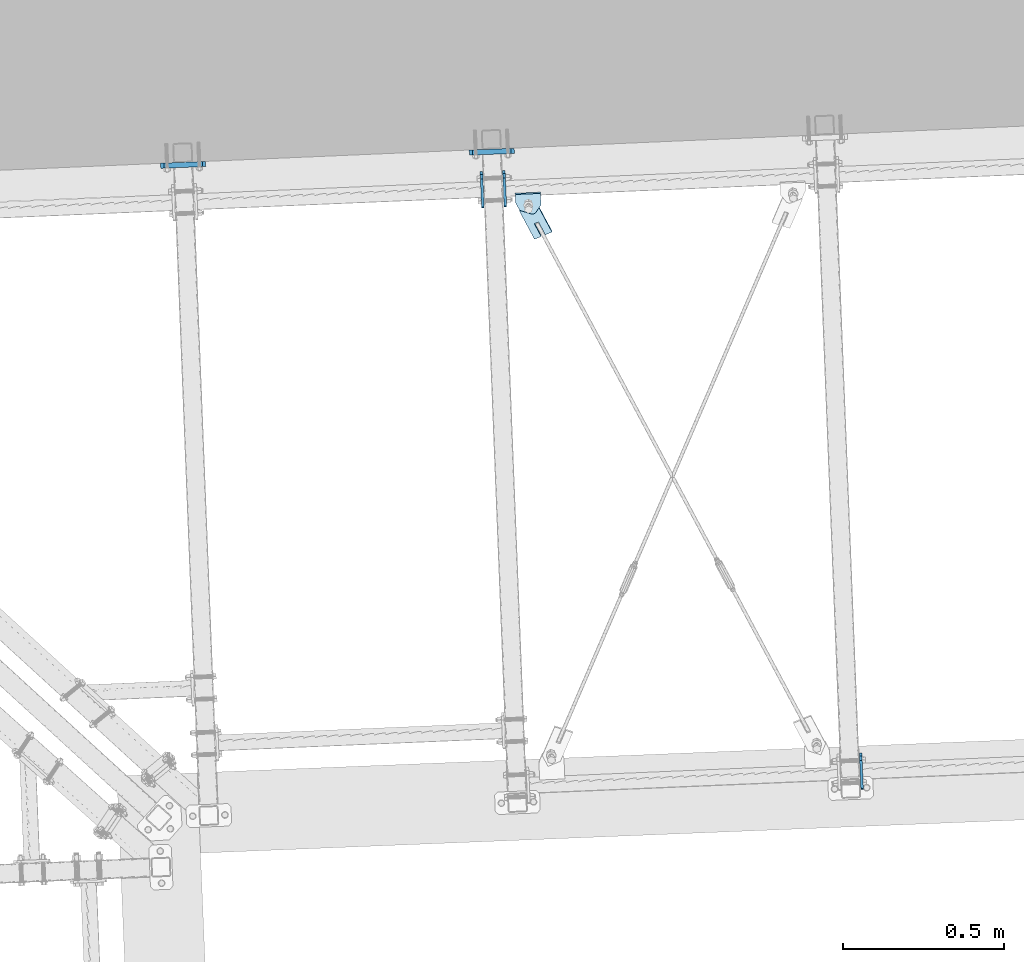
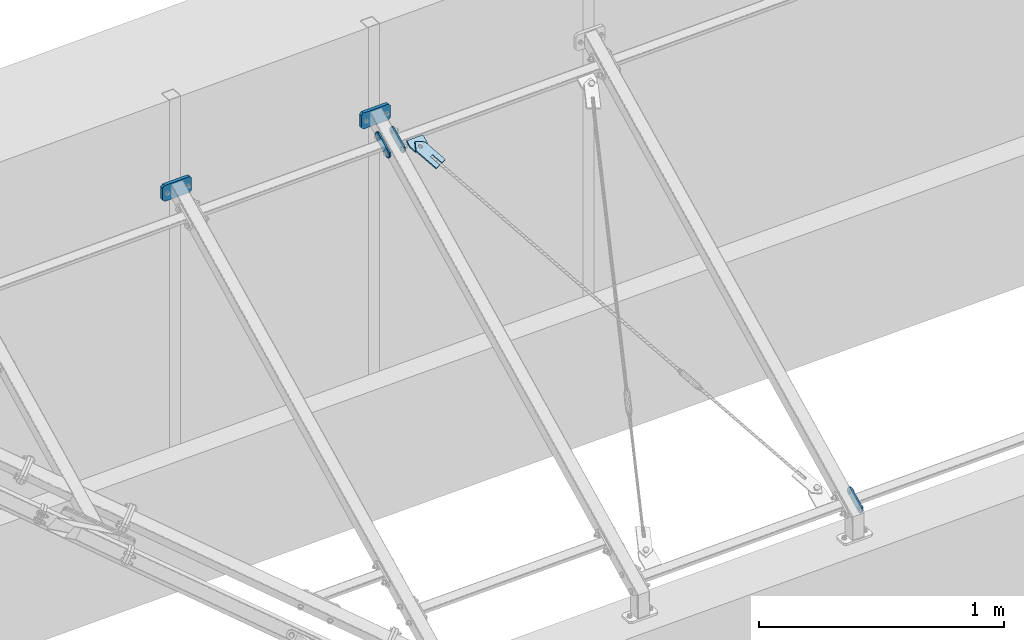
# One storey, part 60 of 288: 7 plates, 37 openings.
"""IFC2X3 building model written with IfcOpenShell, lengths in millimetres."""

from ifc_helpers import new_model, entity, si_unit, converted_unit, point, frame, frame_2d, origin, origin_with_axes, origin_2d_with_axis, place, context, project, spatial, polyline, circle_curve, line_curve, trimmed, segment, composite_curve, circle, outline, extrude, material, layer, layer_set, element, save


model = new_model("IFC2X3")

# Units and contexts
model_context = context("Model", 3, precision=1e-09, world=origin_with_axes())
ifc_project = project(units=[si_unit("LENGTHUNIT", "METRE", prefix="MILLI"), si_unit("AREAUNIT", "SQUARE_METRE"), si_unit("VOLUMEUNIT", "CUBIC_METRE"), converted_unit("PLANEANGLEUNIT", "DEGREE", entity("IfcPlaneAngleMeasure", 0.01745329), si_unit("PLANEANGLEUNIT", "RADIAN"), dimensions=[0, 0, 0, 0, 0, 0, 0])], contexts=[model_context])

# Site, building, storey
site_placement = place(None, origin_with_axes())
site = spatial("IfcSite", under=ifc_project, at=site_placement, Name="Remont ?wietlik?w nad MC w NCPP w Opolu", CompositionType="ELEMENT")
building_placement = place(site_placement, origin_with_axes())
building = spatial("IfcBuilding", under=site, at=building_placement, Name="Konstrukcja 1", CompositionType="ELEMENT")
storey_placement = place(building_placement, origin_with_axes())
storey = spatial("IfcBuildingStorey", under=building, at=storey_placement, Name="Default Storey", CompositionType="ELEMENT", Elevation=0.0)

# Plate, openings
ifc_material = material(Name="S235")
ifc_layer_1 = layer(ifc_material, 8.0)
ifc_layer_set_1 = layer_set([ifc_layer_1], Name="S235")
plate_1_placement = place(None, frame((3509.922791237, 13676.805051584, 93.006119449), z_axis=(-0.999102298, -0.042361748, 0.000284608), x_axis=(0.021561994, -0.502733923, 0.864172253)))
plate_1 = element("IfcPlate", 1, at=plate_1_placement, inside=storey, material=ifc_layer_set_1, Name="-", ObjectType="-", context=model_context, shape_type="SweptSolid", body=[
    extrude(outline(polyline([(0.0, 0.0), (40.0, 0.0), (40.0, 120.0), (0.0, 120.0), (0.0, 0.0)])), origin_with_axes(), (0.0, 0.0, 1.0), 8.0),
])
opening_1_placement = place(plate_1_placement, frame((0.0, 0.0, -0.01), z_axis=(0.0, 0.0, 1.0), x_axis=(1.0, 0.0, 0.0)))
element("IfcOpeningElement", 2, at=opening_1_placement, cuts=plate_1, ObjectType="Opening", context=model_context, shape_type="SweptSolid", body=[
    extrude(outline(composite_curve([segment(trimmed(line_curve((0.0, 0.0), (1.0, 0.0), 10.0), [point((0.0, 0.0))], [point((10.0, 0.0))], True, "CARTESIAN"), True, "CONTINUOUS"), segment(trimmed(circle_curve(frame_2d((10.0, 10.0), x_axis=(-1.0, 0.0)), 10.0), [point((10.0, 0.0))], [point((0.0, 10.0))], False, "CARTESIAN"), True, "CONTINUOUS"), segment(trimmed(line_curve((0.0, 10.0), (0.0, -1.0), 10.0), [point((0.0, 10.0))], [point((0.0, 0.0))], True, "CARTESIAN"), True, "CONTINUOUS")], self_intersect=False)), origin(), (0.0, 0.0, 1.0), 8.02),
])
opening_2_placement = place(plate_1_placement, frame((0.0, 0.0, -0.01), z_axis=(0.0, 0.0, 1.0), x_axis=(1.0, 0.0, 0.0)))
element("IfcOpeningElement", 3, at=opening_2_placement, cuts=plate_1, ObjectType="Opening", context=model_context, shape_type="SweptSolid", body=[
    extrude(outline(composite_curve([segment(trimmed(line_curve((40.0, 0.0), (0.0, 1.0), 10.0), [point((40.0, 0.0))], [point((40.0, 10.0))], True, "CARTESIAN"), True, "CONTINUOUS"), segment(trimmed(circle_curve(frame_2d((30.0, 10.0), x_axis=(-1.0, 0.0)), 10.0), [point((40.0, 10.0))], [point((30.0, 0.0))], False, "CARTESIAN"), True, "CONTINUOUS"), segment(trimmed(line_curve((30.0, 0.0), (1.0, 0.0), 10.0), [point((30.0, 0.0))], [point((40.0, 0.0))], True, "CARTESIAN"), True, "CONTINUOUS")], self_intersect=False)), origin(), (0.0, 0.0, 1.0), 8.02),
])
opening_3_placement = place(plate_1_placement, frame((0.0, 0.0, -0.01), z_axis=(0.0, 0.0, 1.0), x_axis=(1.0, 0.0, 0.0)))
element("IfcOpeningElement", 4, at=opening_3_placement, cuts=plate_1, ObjectType="Opening", context=model_context, shape_type="SweptSolid", body=[
    extrude(outline(composite_curve([segment(trimmed(line_curve((40.0, 120.0), (-1.0, 0.0), 10.0), [point((40.0, 120.0))], [point((30.0, 120.0))], True, "CARTESIAN"), True, "CONTINUOUS"), segment(trimmed(circle_curve(frame_2d((30.0, 110.0), x_axis=(-1.0, 0.0)), 10.0), [point((30.0, 120.0))], [point((40.0, 110.0))], False, "CARTESIAN"), True, "CONTINUOUS"), segment(trimmed(line_curve((40.0, 110.0), (0.0, 1.0), 10.0), [point((40.0, 110.0))], [point((40.0, 120.0))], True, "CARTESIAN"), True, "CONTINUOUS")], self_intersect=False)), origin(), (0.0, 0.0, 1.0), 8.02),
])
opening_4_placement = place(plate_1_placement, frame((0.0, 0.0, -0.01), z_axis=(0.0, 0.0, 1.0), x_axis=(1.0, 0.0, 0.0)))
element("IfcOpeningElement", 5, at=opening_4_placement, cuts=plate_1, ObjectType="Opening", context=model_context, shape_type="SweptSolid", body=[
    extrude(outline(composite_curve([segment(trimmed(line_curve((0.0, 120.0), (0.0, -1.0), 10.0), [point((0.0, 120.0))], [point((0.0, 110.0))], True, "CARTESIAN"), True, "CONTINUOUS"), segment(trimmed(circle_curve(frame_2d((10.0, 110.0), x_axis=(-1.0, 0.0)), 10.0), [point((0.0, 110.0))], [point((10.0, 120.0))], False, "CARTESIAN"), True, "CONTINUOUS"), segment(trimmed(line_curve((10.0, 120.0), (-1.0, 0.0), 10.0), [point((10.0, 120.0))], [point((0.0, 120.0))], True, "CARTESIAN"), True, "CONTINUOUS")], self_intersect=False)), origin(), (0.0, 0.0, 1.0), 8.02),
])
opening_5_placement = place(plate_1_placement, frame((12.999, 100.0, 8.5), z_axis=(0.0, 0.0, 1.0), x_axis=(1.0, 0.0, 0.0)))
element("IfcOpeningElement", 6, at=opening_5_placement, cuts=plate_1, ObjectType="Opening", context=model_context, shape_type="SweptSolid", body=[
    extrude(circle(Radius=7.001, at=frame_2d((7.001, 0.0), x_axis=(1.0, 0.0))), origin(), (0.0, 0.0, -1.0), 9.0),
])
opening_6_placement = place(plate_1_placement, frame((12.999, 20.0, 8.5), z_axis=(0.0, 0.0, 1.0), x_axis=(1.0, 0.0, 0.0)))
element("IfcOpeningElement", 7, at=opening_6_placement, cuts=plate_1, ObjectType="Opening", context=model_context, shape_type="SweptSolid", body=[
    extrude(circle(Radius=7.001, at=frame_2d((7.001, 0.0), x_axis=(1.0, 0.0))), origin(), (0.0, 0.0, -1.0), 9.0),
])

plate_2_placement = place(None, frame((2400.948447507, 15487.741008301, 1176.438469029), z_axis=(-0.999102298, -0.042361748, 0.000284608), x_axis=(0.021561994, -0.502733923, 0.864172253)))
plate_2 = element("IfcPlate", 8, at=plate_2_placement, inside=storey, material=ifc_layer_set_1, Name="-", ObjectType="-", context=model_context, shape_type="SweptSolid", body=[
    extrude(outline(polyline([(0.0, 0.0), (40.0, 0.0), (40.0, 120.0), (0.0, 120.0), (0.0, 0.0)])), origin_with_axes(), (0.0, 0.0, 1.0), 8.0),
])
opening_7_placement = place(plate_2_placement, frame((0.0, 0.0, -0.01), z_axis=(0.0, 0.0, 1.0), x_axis=(1.0, 0.0, 0.0)))
element("IfcOpeningElement", 9, at=opening_7_placement, cuts=plate_2, ObjectType="Opening", context=model_context, shape_type="SweptSolid", body=[
    extrude(outline(composite_curve([segment(trimmed(line_curve((0.0, 0.0), (1.0, 0.0), 10.0), [point((0.0, 0.0))], [point((10.0, 0.0))], True, "CARTESIAN"), True, "CONTINUOUS"), segment(trimmed(circle_curve(frame_2d((10.0, 10.0), x_axis=(-1.0, 0.0)), 10.0), [point((10.0, 0.0))], [point((0.0, 10.0))], False, "CARTESIAN"), True, "CONTINUOUS"), segment(trimmed(line_curve((0.0, 10.0), (0.0, -1.0), 10.0), [point((0.0, 10.0))], [point((0.0, 0.0))], True, "CARTESIAN"), True, "CONTINUOUS")], self_intersect=False)), origin(), (0.0, 0.0, 1.0), 8.02),
])
opening_8_placement = place(plate_2_placement, frame((0.0, 0.0, -0.01), z_axis=(0.0, 0.0, 1.0), x_axis=(1.0, 0.0, 0.0)))
element("IfcOpeningElement", 10, at=opening_8_placement, cuts=plate_2, ObjectType="Opening", context=model_context, shape_type="SweptSolid", body=[
    extrude(outline(composite_curve([segment(trimmed(line_curve((40.0, 0.0), (0.0, 1.0), 10.0), [point((40.0, 0.0))], [point((40.0, 10.0))], True, "CARTESIAN"), True, "CONTINUOUS"), segment(trimmed(circle_curve(frame_2d((30.0, 10.0), x_axis=(-1.0, 0.0)), 10.0), [point((40.0, 10.0))], [point((30.0, 0.0))], False, "CARTESIAN"), True, "CONTINUOUS"), segment(trimmed(line_curve((30.0, 0.0), (1.0, 0.0), 10.0), [point((30.0, 0.0))], [point((40.0, 0.0))], True, "CARTESIAN"), True, "CONTINUOUS")], self_intersect=False)), origin(), (0.0, 0.0, 1.0), 8.02),
])
opening_9_placement = place(plate_2_placement, frame((0.0, 0.0, -0.01), z_axis=(0.0, 0.0, 1.0), x_axis=(1.0, 0.0, 0.0)))
element("IfcOpeningElement", 11, at=opening_9_placement, cuts=plate_2, ObjectType="Opening", context=model_context, shape_type="SweptSolid", body=[
    extrude(outline(composite_curve([segment(trimmed(line_curve((40.0, 120.0), (-1.0, 0.0), 10.0), [point((40.0, 120.0))], [point((30.0, 120.0))], True, "CARTESIAN"), True, "CONTINUOUS"), segment(trimmed(circle_curve(frame_2d((30.0, 110.0), x_axis=(-1.0, 0.0)), 10.0), [point((30.0, 120.0))], [point((40.0, 110.0))], False, "CARTESIAN"), True, "CONTINUOUS"), segment(trimmed(line_curve((40.0, 110.0), (0.0, 1.0), 10.0), [point((40.0, 110.0))], [point((40.0, 120.0))], True, "CARTESIAN"), True, "CONTINUOUS")], self_intersect=False)), origin(), (0.0, 0.0, 1.0), 8.02),
])
opening_10_placement = place(plate_2_placement, frame((0.0, 0.0, -0.01), z_axis=(0.0, 0.0, 1.0), x_axis=(1.0, 0.0, 0.0)))
element("IfcOpeningElement", 12, at=opening_10_placement, cuts=plate_2, ObjectType="Opening", context=model_context, shape_type="SweptSolid", body=[
    extrude(outline(composite_curve([segment(trimmed(line_curve((0.0, 120.0), (0.0, -1.0), 10.0), [point((0.0, 120.0))], [point((0.0, 110.0))], True, "CARTESIAN"), True, "CONTINUOUS"), segment(trimmed(circle_curve(frame_2d((10.0, 110.0), x_axis=(-1.0, 0.0)), 10.0), [point((0.0, 110.0))], [point((10.0, 120.0))], False, "CARTESIAN"), True, "CONTINUOUS"), segment(trimmed(line_curve((10.0, 120.0), (-1.0, 0.0), 10.0), [point((10.0, 120.0))], [point((0.0, 120.0))], True, "CARTESIAN"), True, "CONTINUOUS")], self_intersect=False)), origin(), (0.0, 0.0, 1.0), 8.02),
])
opening_11_placement = place(plate_2_placement, frame((20.0, 60.0, -0.5), z_axis=(0.0, 0.0, 1.0), x_axis=(1.0, 0.0, 0.0)))
element("IfcOpeningElement", 13, at=opening_11_placement, cuts=plate_2, ObjectType="Opening", context=model_context, shape_type="SweptSolid", body=[
    extrude(circle(Radius=7.001, at=frame_2d((0.0, 40.0), x_axis=(1.0, 0.0))), origin(), (0.0, 0.0, 1.0), 9.0),
])
opening_12_placement = place(plate_2_placement, frame((20.0, 60.0, -0.5), z_axis=(0.0, 0.0, 1.0), x_axis=(1.0, 0.0, 0.0)))
element("IfcOpeningElement", 14, at=opening_12_placement, cuts=plate_2, ObjectType="Opening", context=model_context, shape_type="SweptSolid", body=[
    extrude(circle(Radius=7.001, at=frame_2d((0.0, -40.0), x_axis=(1.0, 0.0))), origin(), (0.0, 0.0, 1.0), 9.0),
])

plate_3_placement = place(None, frame((2331.011286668, 15484.775685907, 1176.458391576), z_axis=(-0.999102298, -0.042361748, 0.000284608), x_axis=(0.021561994, -0.502733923, 0.864172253)))
plate_3 = element("IfcPlate", 15, at=plate_3_placement, inside=storey, material=ifc_layer_set_1, Name="-", ObjectType="-", context=model_context, shape_type="SweptSolid", body=[
    extrude(outline(polyline([(0.0, 0.0), (40.0, 0.0), (40.0, 120.0), (0.0, 120.0), (0.0, 0.0)])), origin_with_axes(), (0.0, 0.0, 1.0), 8.0),
])
opening_13_placement = place(plate_3_placement, frame((0.0, 0.0, -0.01), z_axis=(0.0, 0.0, 1.0), x_axis=(1.0, 0.0, 0.0)))
element("IfcOpeningElement", 16, at=opening_13_placement, cuts=plate_3, ObjectType="Opening", context=model_context, shape_type="SweptSolid", body=[
    extrude(outline(composite_curve([segment(trimmed(line_curve((40.0, 0.0), (0.0, 1.0), 10.0), [point((40.0, 0.0))], [point((40.0, 10.0))], True, "CARTESIAN"), True, "CONTINUOUS"), segment(trimmed(circle_curve(frame_2d((30.0, 10.0), x_axis=(-1.0, 0.0)), 10.0), [point((40.0, 10.0))], [point((30.0, 0.0))], False, "CARTESIAN"), True, "CONTINUOUS"), segment(trimmed(line_curve((30.0, 0.0), (1.0, 0.0), 10.0), [point((30.0, 0.0))], [point((40.0, 0.0))], True, "CARTESIAN"), True, "CONTINUOUS")], self_intersect=False)), origin(), (0.0, 0.0, 1.0), 8.02),
])
opening_14_placement = place(plate_3_placement, frame((0.0, 0.0, -0.01), z_axis=(0.0, 0.0, 1.0), x_axis=(1.0, 0.0, 0.0)))
element("IfcOpeningElement", 17, at=opening_14_placement, cuts=plate_3, ObjectType="Opening", context=model_context, shape_type="SweptSolid", body=[
    extrude(outline(composite_curve([segment(trimmed(line_curve((0.0, 0.0), (1.0, 0.0), 10.0), [point((0.0, 0.0))], [point((10.0, 0.0))], True, "CARTESIAN"), True, "CONTINUOUS"), segment(trimmed(circle_curve(frame_2d((10.0, 10.0), x_axis=(-1.0, 0.0)), 10.0), [point((10.0, 0.0))], [point((0.0, 10.0))], False, "CARTESIAN"), True, "CONTINUOUS"), segment(trimmed(line_curve((0.0, 10.0), (0.0, -1.0), 10.0), [point((0.0, 10.0))], [point((0.0, 0.0))], True, "CARTESIAN"), True, "CONTINUOUS")], self_intersect=False)), origin(), (0.0, 0.0, 1.0), 8.02),
])
opening_15_placement = place(plate_3_placement, frame((0.0, 0.0, -0.01), z_axis=(0.0, 0.0, 1.0), x_axis=(1.0, 0.0, 0.0)))
element("IfcOpeningElement", 18, at=opening_15_placement, cuts=plate_3, ObjectType="Opening", context=model_context, shape_type="SweptSolid", body=[
    extrude(outline(composite_curve([segment(trimmed(line_curve((40.0, 120.0), (-1.0, 0.0), 10.0), [point((40.0, 120.0))], [point((30.0, 120.0))], True, "CARTESIAN"), True, "CONTINUOUS"), segment(trimmed(circle_curve(frame_2d((30.0, 110.0), x_axis=(-1.0, 0.0)), 10.0), [point((30.0, 120.0))], [point((40.0, 110.0))], False, "CARTESIAN"), True, "CONTINUOUS"), segment(trimmed(line_curve((40.0, 110.0), (0.0, 1.0), 10.0), [point((40.0, 110.0))], [point((40.0, 120.0))], True, "CARTESIAN"), True, "CONTINUOUS")], self_intersect=False)), origin(), (0.0, 0.0, 1.0), 8.02),
])
opening_16_placement = place(plate_3_placement, frame((0.0, 0.0, -0.01), z_axis=(0.0, 0.0, 1.0), x_axis=(1.0, 0.0, 0.0)))
element("IfcOpeningElement", 19, at=opening_16_placement, cuts=plate_3, ObjectType="Opening", context=model_context, shape_type="SweptSolid", body=[
    extrude(outline(composite_curve([segment(trimmed(line_curve((0.0, 120.0), (0.0, -1.0), 10.0), [point((0.0, 120.0))], [point((0.0, 110.0))], True, "CARTESIAN"), True, "CONTINUOUS"), segment(trimmed(circle_curve(frame_2d((10.0, 110.0), x_axis=(-1.0, 0.0)), 10.0), [point((0.0, 110.0))], [point((10.0, 120.0))], False, "CARTESIAN"), True, "CONTINUOUS"), segment(trimmed(line_curve((10.0, 120.0), (-1.0, 0.0), 10.0), [point((10.0, 120.0))], [point((0.0, 120.0))], True, "CARTESIAN"), True, "CONTINUOUS")], self_intersect=False)), origin(), (0.0, 0.0, 1.0), 8.02),
])
opening_17_placement = place(plate_3_placement, frame((20.0, 60.0, -0.5), z_axis=(0.0, 0.0, 1.0), x_axis=(1.0, 0.0, 0.0)))
element("IfcOpeningElement", 20, at=opening_17_placement, cuts=plate_3, ObjectType="Opening", context=model_context, shape_type="SweptSolid", body=[
    extrude(circle(Radius=7.001, at=frame_2d((0.0, 40.0), x_axis=(1.0, 0.0))), origin(), (0.0, 0.0, 1.0), 9.0),
])
opening_18_placement = place(plate_3_placement, frame((20.0, 60.0, -0.5), z_axis=(0.0, 0.0, 1.0), x_axis=(1.0, 0.0, 0.0)))
element("IfcOpeningElement", 21, at=opening_18_placement, cuts=plate_3, ObjectType="Opening", context=model_context, shape_type="SweptSolid", body=[
    extrude(circle(Radius=7.001, at=frame_2d((0.0, -40.0), x_axis=(1.0, 0.0))), origin(), (0.0, 0.0, 1.0), 9.0),
])

ifc_layer_2 = layer(ifc_material, 16.0)
ifc_layer_set_2 = layer_set([ifc_layer_2], Name="S235")
plate_4_placement = place(None, frame((1466.139144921, 15598.243717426, 1326.840236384), z_axis=(-0.039393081, 0.999223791, 0.0), x_axis=(0.0, 0.0, -1.0)))
plate_4 = element("IfcPlate", 22, at=plate_4_placement, inside=storey, material=ifc_layer_set_2, Name="Baseplate", ObjectType="Baseplate", context=model_context, shape_type="SweptSolid", body=[
    extrude(outline(polyline([(0.0, 0.0), (79.479967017, 0.0), (79.479967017, 140.0), (0.0, 140.0), (0.0, 0.0)])), origin_with_axes(), (0.0, 0.0, 1.0), 16.0),
])
opening_19_placement = place(plate_4_placement, frame((0.0, 0.0, -0.01), z_axis=(0.0, 0.0, 1.0), x_axis=(1.0, 0.0, 0.0)))
element("IfcOpeningElement", 23, at=opening_19_placement, cuts=plate_4, ObjectType="Opening", context=model_context, shape_type="SweptSolid", body=[
    extrude(outline(composite_curve([segment(trimmed(line_curve((0.0, 140.0), (0.0, -1.0), 10.0), [point((0.0, 140.0))], [point((0.0, 130.0))], True, "CARTESIAN"), True, "CONTINUOUS"), segment(trimmed(circle_curve(frame_2d((10.0, 130.0), x_axis=(-1.0, 0.0)), 10.0), [point((0.0, 130.0))], [point((10.0, 140.0))], False, "CARTESIAN"), True, "CONTINUOUS"), segment(trimmed(line_curve((10.0, 140.0), (-1.0, 0.0), 10.0), [point((10.0, 140.0))], [point((0.0, 140.0))], True, "CARTESIAN"), True, "CONTINUOUS")], self_intersect=False)), origin(), (0.0, 0.0, 1.0), 16.02),
])
opening_20_placement = place(plate_4_placement, frame((0.0, 0.0, -0.01), z_axis=(0.0, 0.0, 1.0), x_axis=(1.0, 0.0, 0.0)))
element("IfcOpeningElement", 24, at=opening_20_placement, cuts=plate_4, ObjectType="Opening", context=model_context, shape_type="SweptSolid", body=[
    extrude(outline(composite_curve([segment(trimmed(line_curve((0.0, 0.0), (1.0, 0.0), 10.0), [point((0.0, 0.0))], [point((10.0, 0.0))], True, "CARTESIAN"), True, "CONTINUOUS"), segment(trimmed(circle_curve(frame_2d((10.0, 10.0), x_axis=(-1.0, 0.0)), 10.0), [point((10.0, 0.0))], [point((0.0, 10.0))], False, "CARTESIAN"), True, "CONTINUOUS"), segment(trimmed(line_curve((0.0, 10.0), (0.0, -1.0), 10.0), [point((0.0, 10.0))], [point((0.0, 0.0))], True, "CARTESIAN"), True, "CONTINUOUS")], self_intersect=False)), origin(), (0.0, 0.0, 1.0), 16.02),
])
opening_21_placement = place(plate_4_placement, frame((0.0, 0.0, -0.01), z_axis=(0.0, 0.0, 1.0), x_axis=(1.0, 0.0, 0.0)))
element("IfcOpeningElement", 25, at=opening_21_placement, cuts=plate_4, ObjectType="Opening", context=model_context, shape_type="SweptSolid", body=[
    extrude(outline(composite_curve([segment(trimmed(line_curve((79.479967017, 0.0), (0.0, 1.0), 10.0), [point((79.479967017, 0.0))], [point((79.479967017, 10.0))], True, "CARTESIAN"), True, "CONTINUOUS"), segment(trimmed(circle_curve(frame_2d((69.479967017, 10.0), x_axis=(-1.0, 0.0)), 10.0), [point((79.479967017, 10.0))], [point((69.479967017, 0.0))], False, "CARTESIAN"), True, "CONTINUOUS"), segment(trimmed(line_curve((69.479967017, 0.0), (1.0, 0.0), 10.0), [point((69.479967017, 0.0))], [point((79.479967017, 0.0))], True, "CARTESIAN"), True, "CONTINUOUS")], self_intersect=False)), origin(), (0.0, 0.0, 1.0), 16.02),
])
opening_22_placement = place(plate_4_placement, frame((0.0, 0.0, -0.01), z_axis=(0.0, 0.0, 1.0), x_axis=(1.0, 0.0, 0.0)))
element("IfcOpeningElement", 26, at=opening_22_placement, cuts=plate_4, ObjectType="Opening", context=model_context, shape_type="SweptSolid", body=[
    extrude(outline(composite_curve([segment(trimmed(line_curve((79.479967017, 140.0), (-1.0, 0.0), 10.0), [point((79.479967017, 140.0))], [point((69.479967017, 140.0))], True, "CARTESIAN"), True, "CONTINUOUS"), segment(trimmed(circle_curve(frame_2d((69.479967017, 130.0), x_axis=(-1.0, 0.0)), 10.0), [point((69.479967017, 140.0))], [point((79.479967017, 130.0))], False, "CARTESIAN"), True, "CONTINUOUS"), segment(trimmed(line_curve((79.479967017, 130.0), (0.0, 1.0), 10.0), [point((79.479967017, 130.0))], [point((79.479967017, 140.0))], True, "CARTESIAN"), True, "CONTINUOUS")], self_intersect=False)), origin(), (0.0, 0.0, 1.0), 16.02),
])
opening_23_placement = place(plate_4_placement, frame((39.739983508, 120.0, 16.5), z_axis=(0.0, 0.0, -1.0), x_axis=(1.0, 0.0, 0.0)))
element("IfcOpeningElement", 27, at=opening_23_placement, cuts=plate_4, ObjectType="Opening", context=model_context, shape_type="SweptSolid", body=[
    extrude(circle(Radius=6.001, at=origin_2d_with_axis()), origin(), (0.0, 0.0, 1.0), 17.0),
])
opening_24_placement = place(plate_4_placement, frame((39.739983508, 20.0, 16.5), z_axis=(0.0, 0.0, -1.0), x_axis=(1.0, 0.0, 0.0)))
element("IfcOpeningElement", 28, at=opening_24_placement, cuts=plate_4, ObjectType="Opening", context=model_context, shape_type="SweptSolid", body=[
    extrude(circle(Radius=6.001, at=origin_2d_with_axis()), origin(), (0.0, 0.0, 1.0), 17.0),
])

plate_5_placement = place(None, frame((2425.529943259, 15639.121884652, 1326.521717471), z_axis=(-0.039393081, 0.999223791, 0.0), x_axis=(0.0, 0.0, -1.0)))
plate_5 = element("IfcPlate", 29, at=plate_5_placement, inside=storey, material=ifc_layer_set_2, Name="Baseplate", ObjectType="Baseplate", context=model_context, shape_type="SweptSolid", body=[
    extrude(outline(polyline([(0.0, 0.0), (79.473498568, 0.0), (79.473498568, 140.0), (0.0, 140.0), (0.0, 0.0)])), origin_with_axes(), (0.0, 0.0, 1.0), 16.0),
])
opening_25_placement = place(plate_5_placement, frame((0.0, 0.0, -0.01), z_axis=(0.0, 0.0, 1.0), x_axis=(1.0, 0.0, 0.0)))
element("IfcOpeningElement", 30, at=opening_25_placement, cuts=plate_5, ObjectType="Opening", context=model_context, shape_type="SweptSolid", body=[
    extrude(outline(composite_curve([segment(trimmed(line_curve((0.0, 140.0), (0.0, -1.0), 10.0), [point((0.0, 140.0))], [point((0.0, 130.0))], True, "CARTESIAN"), True, "CONTINUOUS"), segment(trimmed(circle_curve(frame_2d((10.0, 130.0), x_axis=(-1.0, 0.0)), 10.0), [point((0.0, 130.0))], [point((10.0, 140.0))], False, "CARTESIAN"), True, "CONTINUOUS"), segment(trimmed(line_curve((10.0, 140.0), (-1.0, 0.0), 10.0), [point((10.0, 140.0))], [point((0.0, 140.0))], True, "CARTESIAN"), True, "CONTINUOUS")], self_intersect=False)), origin(), (0.0, 0.0, 1.0), 16.02),
])
opening_26_placement = place(plate_5_placement, frame((0.0, 0.0, -0.01), z_axis=(0.0, 0.0, 1.0), x_axis=(1.0, 0.0, 0.0)))
element("IfcOpeningElement", 31, at=opening_26_placement, cuts=plate_5, ObjectType="Opening", context=model_context, shape_type="SweptSolid", body=[
    extrude(outline(composite_curve([segment(trimmed(line_curve((79.473498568, 140.0), (-1.0, 0.0), 10.0), [point((79.473498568, 140.0))], [point((69.473498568, 140.0))], True, "CARTESIAN"), True, "CONTINUOUS"), segment(trimmed(circle_curve(frame_2d((69.473498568, 130.0), x_axis=(-1.0, 0.0)), 10.0), [point((69.473498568, 140.0))], [point((79.473498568, 130.0))], False, "CARTESIAN"), True, "CONTINUOUS"), segment(trimmed(line_curve((79.473498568, 130.0), (0.0, 1.0), 10.0), [point((79.473498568, 130.0))], [point((79.473498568, 140.0))], True, "CARTESIAN"), True, "CONTINUOUS")], self_intersect=False)), origin(), (0.0, 0.0, 1.0), 16.02),
])
opening_27_placement = place(plate_5_placement, frame((0.0, 0.0, -0.01), z_axis=(0.0, 0.0, 1.0), x_axis=(1.0, 0.0, 0.0)))
element("IfcOpeningElement", 32, at=opening_27_placement, cuts=plate_5, ObjectType="Opening", context=model_context, shape_type="SweptSolid", body=[
    extrude(outline(composite_curve([segment(trimmed(line_curve((0.0, 0.0), (1.0, 0.0), 10.0), [point((0.0, 0.0))], [point((10.0, 0.0))], True, "CARTESIAN"), True, "CONTINUOUS"), segment(trimmed(circle_curve(frame_2d((10.0, 10.0), x_axis=(-1.0, 0.0)), 10.0), [point((10.0, 0.0))], [point((0.0, 10.0))], False, "CARTESIAN"), True, "CONTINUOUS"), segment(trimmed(line_curve((0.0, 10.0), (0.0, -1.0), 10.0), [point((0.0, 10.0))], [point((0.0, 0.0))], True, "CARTESIAN"), True, "CONTINUOUS")], self_intersect=False)), origin(), (0.0, 0.0, 1.0), 16.02),
])
opening_28_placement = place(plate_5_placement, frame((0.0, 0.0, -0.01), z_axis=(0.0, 0.0, 1.0), x_axis=(1.0, 0.0, 0.0)))
element("IfcOpeningElement", 33, at=opening_28_placement, cuts=plate_5, ObjectType="Opening", context=model_context, shape_type="SweptSolid", body=[
    extrude(outline(composite_curve([segment(trimmed(line_curve((79.473498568, 0.0), (0.0, 1.0), 10.0), [point((79.473498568, 0.0))], [point((79.473498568, 10.0))], True, "CARTESIAN"), True, "CONTINUOUS"), segment(trimmed(circle_curve(frame_2d((69.473498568, 10.0), x_axis=(-1.0, 0.0)), 10.0), [point((79.473498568, 10.0))], [point((69.473498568, 0.0))], False, "CARTESIAN"), True, "CONTINUOUS"), segment(trimmed(line_curve((69.473498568, 0.0), (1.0, 0.0), 10.0), [point((69.473498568, 0.0))], [point((79.473498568, 0.0))], True, "CARTESIAN"), True, "CONTINUOUS")], self_intersect=False)), origin(), (0.0, 0.0, 1.0), 16.02),
])
opening_29_placement = place(plate_5_placement, frame((39.736749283, 20.0, 16.5), z_axis=(0.0, 0.0, -1.0), x_axis=(1.0, 0.0, 0.0)))
element("IfcOpeningElement", 34, at=opening_29_placement, cuts=plate_5, ObjectType="Opening", context=model_context, shape_type="SweptSolid", body=[
    extrude(circle(Radius=6.001, at=origin_2d_with_axis()), origin(), (0.0, 0.0, 1.0), 17.0),
])
opening_30_placement = place(plate_5_placement, frame((39.736749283, 120.0, 16.5), z_axis=(0.0, 0.0, -1.0), x_axis=(1.0, 0.0, 0.0)))
element("IfcOpeningElement", 35, at=opening_30_placement, cuts=plate_5, ObjectType="Opening", context=model_context, shape_type="SweptSolid", body=[
    extrude(circle(Radius=6.001, at=origin_2d_with_axis()), origin(), (0.0, 0.0, 1.0), 17.0),
])

plate_6_placement = place(None, frame((2487.778008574, 15376.332647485, 1137.044876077), z_axis=(0.021594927, -0.503513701, 0.863717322), x_axis=(0.908477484, 0.370545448, 0.193299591)))
plate_6 = element("IfcPlate", 36, at=plate_6_placement, inside=storey, material=ifc_layer_set_1, Name="Tab_Plate#2", ObjectType="Tab_Plate#2", context=model_context, shape_type="SweptSolid", body=[
    extrude(outline(polyline([(0.0, 0.0), (60.0, 0.0), (60.0, 140.0), (0.0, 140.0), (0.0, 0.0)])), origin_with_axes(), (0.0, 0.0, 1.0), 8.0),
])
opening_31_placement = place(plate_6_placement, frame((0.0, 0.0, -0.01), z_axis=(0.0, 0.0, 1.0), x_axis=(1.0, 0.0, 0.0)))
element("IfcOpeningElement", 37, at=opening_31_placement, cuts=plate_6, ObjectType="Opening", context=model_context, shape_type="SweptSolid", body=[
    extrude(outline(composite_curve([segment(trimmed(line_curve((60.0, 140.0), (-1.0, 0.0), 30.0), [point((60.0, 140.0))], [point((30.0, 140.0))], True, "CARTESIAN"), True, "CONTINUOUS"), segment(trimmed(circle_curve(frame_2d((30.0, 110.0), x_axis=(-1.0, 0.0)), 30.0), [point((30.0, 140.0))], [point((60.0, 110.0))], False, "CARTESIAN"), True, "CONTINUOUS"), segment(trimmed(line_curve((60.0, 110.0), (0.0, 1.0), 30.0), [point((60.0, 110.0))], [point((60.0, 140.0))], True, "CARTESIAN"), True, "CONTINUOUS")], self_intersect=False)), origin(), (0.0, 0.0, 1.0), 8.02),
])
opening_32_placement = place(plate_6_placement, frame((0.0, 0.0, -0.01), z_axis=(0.0, 0.0, 1.0), x_axis=(1.0, 0.0, 0.0)))
element("IfcOpeningElement", 38, at=opening_32_placement, cuts=plate_6, ObjectType="Opening", context=model_context, shape_type="SweptSolid", body=[
    extrude(outline(composite_curve([segment(trimmed(line_curve((0.0, 140.0), (0.0, -1.0), 30.0), [point((0.0, 140.0))], [point((0.0, 110.0))], True, "CARTESIAN"), True, "CONTINUOUS"), segment(trimmed(circle_curve(frame_2d((30.0, 110.0), x_axis=(-1.0, 0.0)), 30.0), [point((0.0, 110.0))], [point((30.0, 140.0))], False, "CARTESIAN"), True, "CONTINUOUS"), segment(trimmed(line_curve((30.0, 140.0), (-1.0, 0.0), 30.0), [point((30.0, 140.0))], [point((0.0, 140.0))], True, "CARTESIAN"), True, "CONTINUOUS")], self_intersect=False)), origin(), (0.0, 0.0, 1.0), 8.02),
])
opening_33_placement = place(plate_6_placement, frame((0.0, 0.0, 8.1), z_axis=(0.0, 0.0, -1.0), x_axis=(-0.923520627, 0.383548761, 0.0)))
element("IfcOpeningElement", 39, at=opening_33_placement, cuts=plate_6, ObjectType="Opening", context=model_context, shape_type="SweptSolid", body=[
    extrude(outline(polyline([(-1.678680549, 55.921713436), (-14.609816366, 61.292163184), (-34.171570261, 14.190764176), (-21.240434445, 8.820314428), (-1.678680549, 55.921713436)])), origin(), (0.0, 0.0, 1.0), 8.2),
])
opening_34_placement = place(plate_6_placement, frame((30.0, 119.001, -0.5), z_axis=(0.0, 0.0, -1.0), x_axis=(-1.0, 0.0, 0.0)))
element("IfcOpeningElement", 40, at=opening_34_placement, cuts=plate_6, ObjectType="Opening", context=model_context, shape_type="SweptSolid", body=[
    extrude(circle(Radius=9.001, at=frame_2d((0.0, -9.001), x_axis=(1.0, 0.0))), origin(), (0.0, 0.0, -1.0), 9.0),
])

plate_7_placement = place(None, frame((2508.896616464, 15461.004850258, 1185.87747255), z_axis=(-0.021594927, 0.503513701, -0.863717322), x_axis=(-0.908477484, -0.370545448, -0.193299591)))
plate_7 = element("IfcPlate", 41, at=plate_7_placement, inside=storey, material=ifc_layer_set_1, Name="Gusset#2", ObjectType="Gusset#2", context=model_context, shape_type="SweptSolid", body=[
    extrude(outline(polyline([(0.0, 0.0), (60.0, 0.0), (60.0, 60.0), (48.512657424, 87.615542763), (-23.913558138, 57.488133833), (0.0, 0.0)])), origin_with_axes(), (0.0, 0.0, 1.0), 8.0),
])
opening_35_placement = place(plate_7_placement, frame((30.0, 39.001, 8.5), z_axis=(0.0, 0.0, 1.0), x_axis=(1.0, 0.0, 0.0)))
element("IfcOpeningElement", 42, at=opening_35_placement, cuts=plate_7, ObjectType="Opening", context=model_context, shape_type="SweptSolid", body=[
    extrude(circle(Radius=9.001, at=frame_2d((0.0, -9.001), x_axis=(1.0, 0.0))), origin(), (0.0, 0.0, -1.0), 9.0),
])
opening_36_placement = place(plate_7_placement, frame((0.0, 0.0, -0.01), z_axis=(0.0, 0.0, 1.0), x_axis=(1.0, 0.0, 0.0)))
element("IfcOpeningElement", 43, at=opening_36_placement, cuts=plate_7, ObjectType="Opening", context=model_context, shape_type="SweptSolid", body=[
    extrude(outline(composite_curve([segment(trimmed(line_curve((60.0, 0.0), (0.0, 1.0), 30.0), [point((60.0, 0.0))], [point((60.0, 30.0))], True, "CARTESIAN"), True, "CONTINUOUS"), segment(trimmed(circle_curve(frame_2d((30.0, 30.0), x_axis=(-1.0, 0.0)), 30.0), [point((60.0, 30.0))], [point((30.0, 0.0))], False, "CARTESIAN"), True, "CONTINUOUS"), segment(trimmed(line_curve((30.0, 0.0), (1.0, 0.0), 30.0), [point((30.0, 0.0))], [point((60.0, 0.0))], True, "CARTESIAN"), True, "CONTINUOUS")], self_intersect=False)), origin(), (0.0, 0.0, 1.0), 8.02),
])
opening_37_placement = place(plate_7_placement, frame((0.0, 0.0, -0.01), z_axis=(0.0, 0.0, 1.0), x_axis=(1.0, 0.0, 0.0)))
element("IfcOpeningElement", 44, at=opening_37_placement, cuts=plate_7, ObjectType="Opening", context=model_context, shape_type="SweptSolid", body=[
    extrude(outline(composite_curve([segment(trimmed(line_curve((0.0, 0.0), (1.0, 0.0), 20.01279684), [point((0.0, 0.0))], [point((20.01279684, 0.0))], True, "CARTESIAN"), True, "CONTINUOUS"), segment(trimmed(circle_curve(frame_2d((20.01279684, 30.0), x_axis=(-1.0, 0.0)), 30.0), [point((20.01279684, 0.0))], [point((-7.686319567, 18.477892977))], False, "CARTESIAN"), True, "CONTINUOUS"), segment(trimmed(line_curve((-7.686319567, 18.477892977), (0.384070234, -0.92330388), 20.01279684), [point((-7.686319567, 18.477892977))], [point((0.0, 0.0))], True, "CARTESIAN"), True, "CONTINUOUS")], self_intersect=False)), origin(), (0.0, 0.0, 1.0), 8.02),
])

save(model, "model.ifc")
